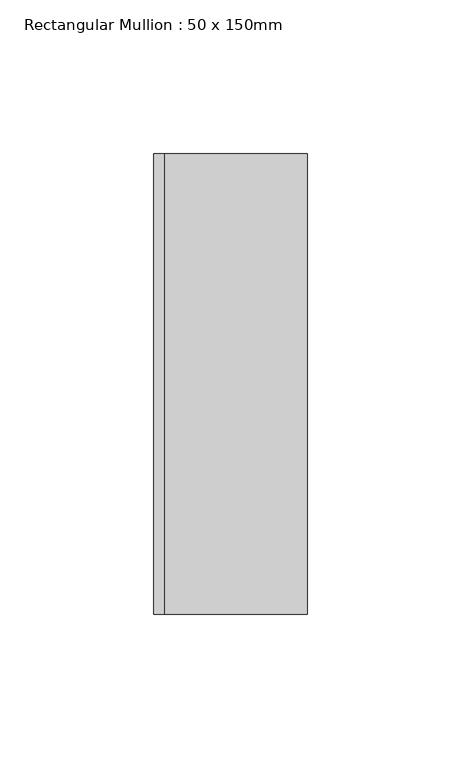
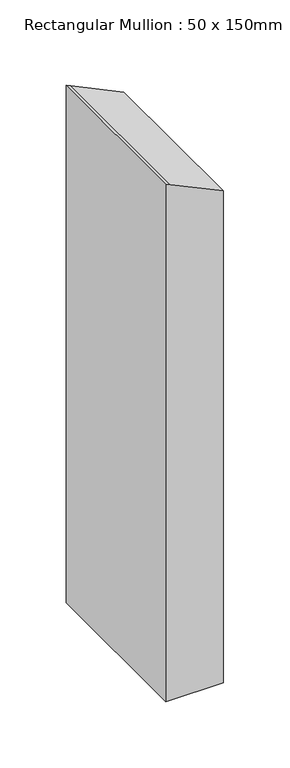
"""IFC4 building model written with IfcOpenShell, lengths in millimetres: member geometry, Rectangular Mullion : 50 x 150mm."""

from ifc_helpers import new_model, si_unit, frame, origin, place, context, project, spatial, polyline, outline, extrude, source, transform, mapped, element, save


def rectangular_mullion_50_x_150mm_accd5bd4(model_context):
    return source(origin(), model_context, "Body", "SweptSolid", [
        extrude(outline(polyline([(-67.2395657, 25.0), (-45.2090591, -21.3577644), (-43.4985831, -25.0), (-519.6072001, -25.0), (-519.6072001, 25.0), (-67.2395657, 25.0)])), frame((0.0, -75.0, 0.0), z_axis=(0.0, 1.0, 0.0), x_axis=(0.0, 0.0, 1.0)), (0.0, 0.0, 1.0), 150.0),
    ])


if __name__ == "__main__":
    model = new_model("IFC4")
    model_context = context("Model", 3, world=origin())
    ifc_project = project(units=[si_unit("LENGTHUNIT", "METRE", prefix="MILLI")], contexts=[model_context])
    site = spatial("IfcSite", under=ifc_project)
    building = spatial("IfcBuilding", under=site)
    placement = place(None, origin())
    rectangular_mullion_50_x_150mm_shape = rectangular_mullion_50_x_150mm_accd5bd4(model_context)
    element("IfcMember", 1, ObjectType="Rectangular Mullion : 50 x 150mm", at=placement, inside=building, context=model_context, shape_type="MappedRepresentation", body=[
        mapped(rectangular_mullion_50_x_150mm_shape, transform((0.0, 0.0, 0.0), x_axis=(1.0, 0.0, 0.0), y_axis=(0.0, 1.0, 0.0), z_axis=(0.0, 0.0, 1.0))),
    ])
    save(model, "model.ifc")
